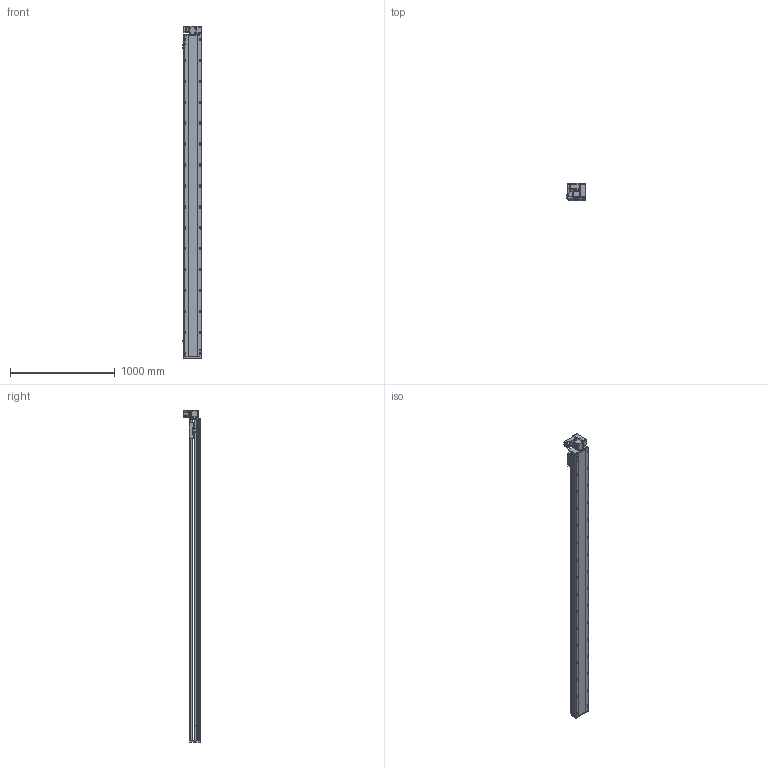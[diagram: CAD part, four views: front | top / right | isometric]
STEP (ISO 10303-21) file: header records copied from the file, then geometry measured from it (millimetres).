
FILE_DESCRIPTION (( 'STEP AP214' ), '1' );
FILE_NAME ('RTB17S-XX-2800-RW-M40-C4.STEP', '2025-12-11T09:15:48', ( '' ), ( '' ), 'SwSTEP 2.0', 'SolidWorks 2018', '' );
FILE_SCHEMA (( 'AUTOMOTIVE_DESIGN' ));
Length unit declared in the file: millimetre
Products named in the file (14): 400W侜督萇儂^RTB17S-XX-XX-RW-M40-C4; OMRON EE-SX672 传感器^RTB17S-XX-XX-RW-M40-C4; RTB14-L-008-M20--萇儂啣^RTB17S-RW-々湍釱蚾饜-400W_RTB17S-XX-XX-RW-M40-C4; RMP17S-L-014-T20--々湍釱^RTB17S-RW-々湍釱蚾饜-400W_RTB17S-XX-XX-RW-M40-C4; RTB17S-L-007奻裔^RTB17S-XX-XX-RW-M40-C4; RTB17-R-011菁釱^RTB17S-XX-XX-RW-M40-C4; RTB17S-L-001耜醱啣^RTB17S-XX-XX-RW-M40-C4; RTB14-L-018P^RTB17S-RW-々湍釱蚾饜-400W_RTB17S-XX-XX-RW-M40-C4; RTH13-BL-012覜茼え俋离^RTB17S-XX-XX-RW-M40-C4; RTB14-L-017P^RTB17S-RW-々湍釱蚾饜-400W_RTB17S-XX-XX-RW-M40-C4; RTB17S-L-004佪裝蹟譫蟀諉釱^RTB17S-XX-XX-RW-M40-C4; RTB17S-RW-々湍釱蚾饜-400W^RTB17S-XX-XX-RW-M40-C4; RTB14-L-005P--轴承塑胶压盖^RTB17S-RW-皮带座装配-400W_RTB17S-XX-XX-RW-M40-C4; RTB17S-XX-2800-RW-M40-C4
Assembly tree (16 placements, depth 3):
  RTB17S-XX-2800-RW-M40-C4
    RTB17-R-011菁釱^RTB17S-XX-XX-RW-M40-C4
    RTB17S-L-007奻裔^RTB17S-XX-XX-RW-M40-C4
    OMRON EE-SX672 传感器^RTB17S-XX-XX-RW-M40-C4  x3
    RTB17S-L-001耜醱啣^RTB17S-XX-XX-RW-M40-C4
    400W侜督萇儂^RTB17S-XX-XX-RW-M40-C4
    RTB17S-L-004佪裝蹟譫蟀諉釱^RTB17S-XX-XX-RW-M40-C4
    RTH13-BL-012覜茼え俋离^RTB17S-XX-XX-RW-M40-C4
    RTB17S-RW-々湍釱蚾饜-400W^RTB17S-XX-XX-RW-M40-C4
      RMP17S-L-014-T20--々湍釱^RTB17S-RW-々湍釱蚾饜-400W_RTB17S-XX-XX-RW-M40-C4
      RTB14-L-005P--轴承塑胶压盖^RTB17S-RW-皮带座装配-400W_RTB17S-XX-XX-RW-M40-C4
      RTB14-L-008-M20--萇儂啣^RTB17S-RW-々湍釱蚾饜-400W_RTB17S-XX-XX-RW-M40-C4
      RTB14-L-017P^RTB17S-RW-々湍釱蚾饜-400W_RTB17S-XX-XX-RW-M40-C4  x2
      RTB14-L-018P^RTB17S-RW-々湍釱蚾饜-400W_RTB17S-XX-XX-RW-M40-C4
Bounding box: 183.5 x 160.5 x 3172.5 mm (x, y, z)
Volume: 27055815.2 mm3; surface area: 3097890 mm2
Topology: 15 solids, 15 shells, 2349 faces, 6573 edges, 4293 vertices
Faces by surface type: plane 1086, cylinder 815, bspline 301, cone 139, torus 8
Entity records: 69545 total; most frequent: CARTESIAN_POINT 19778, ORIENTED_EDGE 9990, DIRECTION 9206, EDGE_CURVE 4995, VERTEX_POINT 3281, AXIS2_PLACEMENT_3D 3211, VECTOR 2784, LINE 2784
